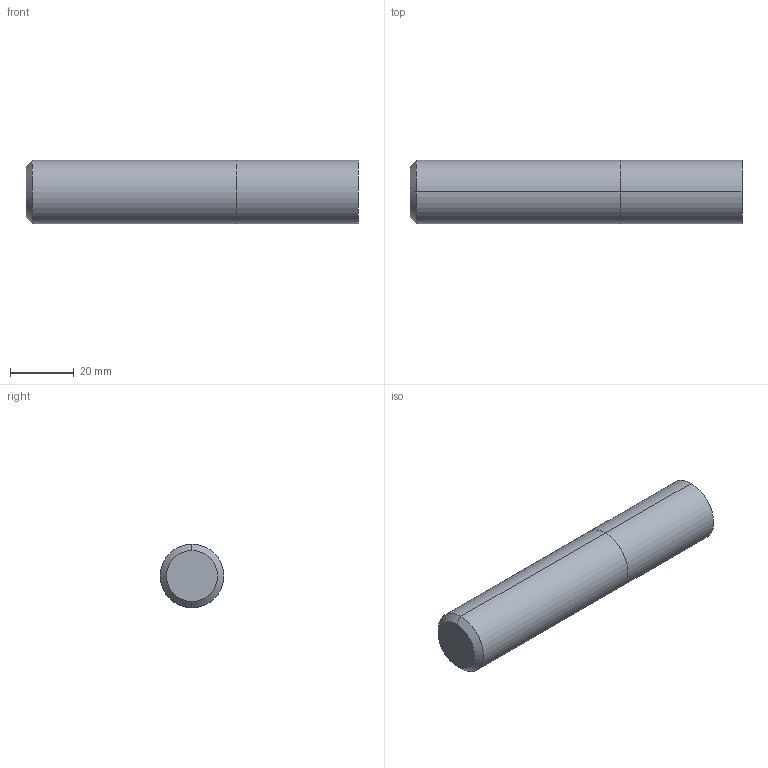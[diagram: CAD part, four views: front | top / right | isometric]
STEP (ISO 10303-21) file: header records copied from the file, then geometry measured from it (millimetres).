
FILE_DESCRIPTION (( 'STEP AP214' ), '1' );
FILE_NAME ('EH919200.STEP', '2018-06-30T08:56:26', ( '' ), ( '' ), 'SwSTEP 2.0', 'SolidWorks 2014', '' );
FILE_SCHEMA (( 'AUTOMOTIVE_DESIGN' ));
Length unit declared in the file: millimetre
Products named in the file (1): EH919200
Bounding box: 104 x 20 x 20 mm (x, y, z)
Volume: 32555.3 mm3; surface area: 7712.3 mm2
Topology: 2 solids, 2 shells, 10 faces, 16 edges, 10 vertices
Faces by surface type: cylinder 4, plane 4, cone 2
Entity records: 321 total; most frequent: DIRECTION 48, CARTESIAN_POINT 37, ORIENTED_EDGE 32, AXIS2_PLACEMENT_3D 21, EDGE_CURVE 16, FACE_OUTER_BOUND 10, EDGE_LOOP 10, VERTEX_POINT 10
